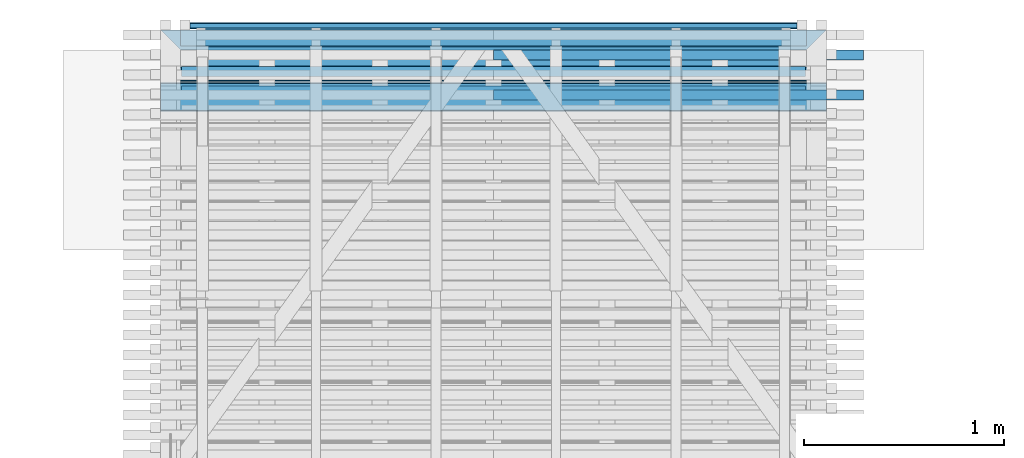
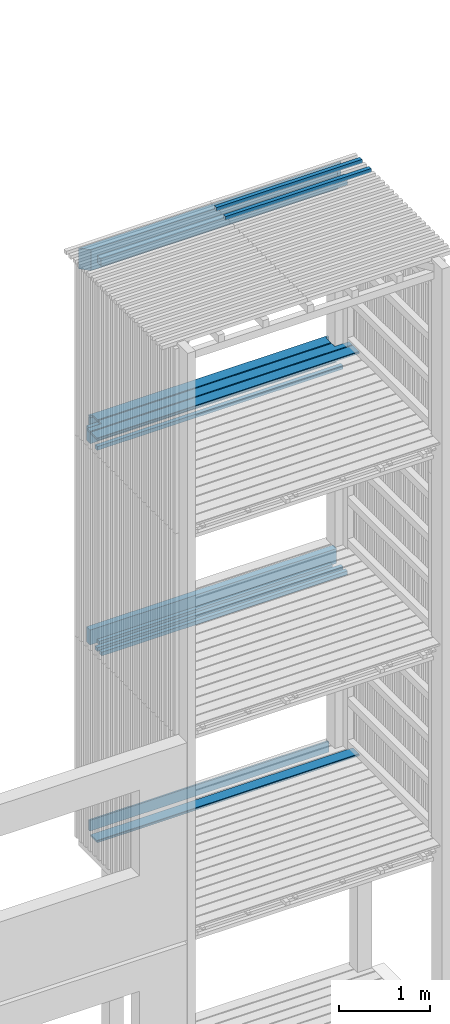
# One storey, part 51 of 182: 17 beams.
"""IFC2X3 building model written with IfcOpenShell, lengths in metres."""

from ifc_helpers import new_model, si_unit, frame, origin, place, context, project, spatial, faceted_brep, element, save


model = new_model("IFC2X3")

# Units and contexts
model_context = context("Model", 3, precision=1e-06, world=origin())
ifc_project = project(units=[si_unit("LENGTHUNIT", "METRE"), si_unit("PLANEANGLEUNIT", "RADIAN")], contexts=[model_context])

# Site, building, storey
site = spatial("IfcSite", under=ifc_project, CompositionType="ELEMENT")
building = spatial("IfcBuilding", under=site, CompositionType="ELEMENT")
storey = spatial("IfcBuildingStorey", under=building, Name="vs", CompositionType="ELEMENT", Elevation=-0.85)

# Beams
placement = place(None, origin())
beam_1_placement = place(placement, frame((16.839197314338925, 12.545077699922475, 10.47999999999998), z_axis=(0.0, 0.0, 1.0), x_axis=(-1.0, 0.0, 0.0)))
element("IfcBeam", 1, at=beam_1_placement, inside=storey, Name="Bardage", context=model_context, shape_type="Brep", body=[
    faceted_brep([(-3e-15, 0.025000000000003, 0.025000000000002), (-3e-15, -0.024999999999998, 0.025000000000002), (1.849999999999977, -0.025000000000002, 0.025000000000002), (1.849999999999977, 0.025000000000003, 0.025000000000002), (1.849999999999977, -0.025000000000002, 0.025000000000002), (-3e-15, -0.024999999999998, 0.025000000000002), (-3e-15, -0.024999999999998, -0.024999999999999), (1.849999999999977, -0.025000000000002, -0.024999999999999), (-3e-15, -0.024999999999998, 0.025000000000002), (-3e-15, 0.025000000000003, 0.025000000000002), (-3e-15, 0.025000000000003, -0.024999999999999), (-3e-15, -0.024999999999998, -0.024999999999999), (-3e-15, 0.025000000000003, -0.024999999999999), (-3e-15, 0.025000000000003, 0.025000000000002), (1.849999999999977, 0.025000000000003, 0.025000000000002), (1.849999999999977, 0.025000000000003, -0.024999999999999), (1.849999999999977, -0.025000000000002, -0.024999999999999), (-3e-15, -0.024999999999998, -0.024999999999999), (-3e-15, 0.025000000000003, -0.024999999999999), (1.849999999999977, 0.025000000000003, -0.024999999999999), (1.849999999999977, -0.025000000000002, 0.025000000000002), (1.849999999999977, -0.025000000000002, -0.024999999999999), (1.849999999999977, 0.025000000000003, -0.024999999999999), (1.849999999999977, 0.025000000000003, 0.025000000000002)], [[[0, 1, 2, 3]], [[4, 5, 6, 7]], [[8, 9, 10, 11]], [[12, 13, 14, 15]], [[16, 17, 18, 19]], [[20, 21, 22, 23]]]),
])
beam_2_placement = place(placement, frame((16.549197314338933, 12.662994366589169, 7.86739999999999), z_axis=(0.0, 0.0, 1.0), x_axis=(-1.0, -1e-15, 0.0)))
element("IfcBeam", 2, at=beam_2_placement, inside=storey, Name="Bardage", context=model_context, shape_type="Brep", body=[
    faceted_brep([(3.120000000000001, 0.024999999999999, -0.024999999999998), (3.120000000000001, 0.024999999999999, 0.025000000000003), (3.120000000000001, -0.025000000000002, 0.025000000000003), (3.120000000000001, -0.025000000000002, -0.024999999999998), (-3e-15, -0.024999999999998, -0.024999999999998), (-3e-15, -0.024999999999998, 0.025000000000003), (-3e-15, 0.025000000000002, 0.025000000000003), (-3e-15, 0.025000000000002, -0.024999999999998), (-3e-15, 0.025000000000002, -0.024999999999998), (-3e-15, 0.025000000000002, 0.025000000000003), (3.120000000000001, 0.024999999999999, 0.025000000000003), (3.120000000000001, 0.024999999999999, -0.024999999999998), (-3e-15, 0.025000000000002, 0.025000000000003), (-3e-15, -0.024999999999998, 0.025000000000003), (3.120000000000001, -0.025000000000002, 0.025000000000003), (3.120000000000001, 0.024999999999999, 0.025000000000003), (-3e-15, -0.024999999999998, 0.025000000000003), (-3e-15, -0.024999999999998, -0.024999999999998), (3.120000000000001, -0.025000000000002, -0.024999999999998), (3.120000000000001, -0.025000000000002, 0.025000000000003), (-3e-15, -0.024999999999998, -0.024999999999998), (-3e-15, 0.025000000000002, -0.024999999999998), (3.120000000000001, 0.024999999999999, -0.024999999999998), (3.120000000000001, -0.025000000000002, -0.024999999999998)], [[[0, 1, 2, 3]], [[4, 5, 6, 7]], [[8, 9, 10, 11]], [[12, 13, 14, 15]], [[16, 17, 18, 19]], [[20, 21, 22, 23]]]),
])
beam_3_placement = place(placement, frame((16.839197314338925, 12.745077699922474, 10.47999999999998), z_axis=(0.0, 0.0, 1.0), x_axis=(-1.0, 0.0, 0.0)))
element("IfcBeam", 3, at=beam_3_placement, inside=storey, Name="Bardage", context=model_context, shape_type="Brep", body=[
    faceted_brep([(-3e-15, 0.024999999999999, 0.025000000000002), (-3e-15, -0.024999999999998, 0.025000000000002), (1.849999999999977, -0.024999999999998, 0.025000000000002), (1.849999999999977, 0.024999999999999, 0.025000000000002), (1.849999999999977, -0.024999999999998, 0.025000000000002), (-3e-15, -0.024999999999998, 0.025000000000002), (-3e-15, -0.024999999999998, -0.024999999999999), (1.849999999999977, -0.024999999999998, -0.024999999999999), (-3e-15, -0.024999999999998, 0.025000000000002), (-3e-15, 0.024999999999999, 0.025000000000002), (-3e-15, 0.024999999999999, -0.024999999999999), (-3e-15, -0.024999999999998, -0.024999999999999), (-3e-15, 0.024999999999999, -0.024999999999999), (-3e-15, 0.024999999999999, 0.025000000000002), (1.849999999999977, 0.024999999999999, 0.025000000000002), (1.849999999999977, 0.024999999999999, -0.024999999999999), (1.849999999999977, -0.024999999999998, -0.024999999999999), (-3e-15, -0.024999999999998, -0.024999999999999), (-3e-15, 0.024999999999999, -0.024999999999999), (1.849999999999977, 0.024999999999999, -0.024999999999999), (1.849999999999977, -0.024999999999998, 0.025000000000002), (1.849999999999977, -0.024999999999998, -0.024999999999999), (1.849999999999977, 0.024999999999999, -0.024999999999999), (1.849999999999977, 0.024999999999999, 0.025000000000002)], [[[0, 1, 2, 3]], [[4, 5, 6, 7]], [[8, 9, 10, 11]], [[12, 13, 14, 15]], [[16, 17, 18, 19]], [[20, 21, 22, 23]]]),
])
beam_4_placement = place(placement, frame((16.549197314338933, 12.662994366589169, 5.167399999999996), z_axis=(0.0, 0.0, 1.0), x_axis=(-1.0, -1e-15, 0.0)))
element("IfcBeam", 4, at=beam_4_placement, inside=storey, Name="Bardage", context=model_context, shape_type="Brep", body=[
    faceted_brep([(3.120000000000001, 0.024999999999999, -0.025), (3.120000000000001, 0.024999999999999, 0.025), (3.120000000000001, -0.025000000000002, 0.025), (3.120000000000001, -0.025000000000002, -0.025), (-3e-15, -0.024999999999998, -0.025), (-3e-15, -0.024999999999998, 0.025), (-3e-15, 0.025000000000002, 0.025), (-3e-15, 0.025000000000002, -0.025), (-3e-15, 0.025000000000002, -0.025), (-3e-15, 0.025000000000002, 0.025), (3.120000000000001, 0.024999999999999, 0.025), (3.120000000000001, 0.024999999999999, -0.025), (-3e-15, 0.025000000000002, 0.025), (-3e-15, -0.024999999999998, 0.025), (3.120000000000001, -0.025000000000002, 0.025), (3.120000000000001, 0.024999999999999, 0.025), (-3e-15, -0.024999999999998, 0.025), (-3e-15, -0.024999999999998, -0.025), (3.120000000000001, -0.025000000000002, -0.025), (3.120000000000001, -0.025000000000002, 0.025), (-3e-15, -0.024999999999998, -0.025), (-3e-15, 0.025000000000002, -0.025), (3.120000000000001, 0.024999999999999, -0.025), (3.120000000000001, -0.025000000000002, -0.025)], [[[0, 1, 2, 3]], [[4, 5, 6, 7]], [[8, 9, 10, 11]], [[12, 13, 14, 15]], [[16, 17, 18, 19]], [[20, 21, 22, 23]]]),
])
beam_5_placement = place(placement, frame((13.472379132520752, 12.89357769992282, 2.642499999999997), z_axis=(0.0, 1.0, 0.0), x_axis=(1.0, 0.0, 0.0)))
element("IfcBeam", 5, at=beam_5_placement, inside=storey, Name="Caillebotis", context=model_context, shape_type="Brep", body=[
    faceted_brep([(-3e-15, -0.0725, -0.013500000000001), (-3e-15, 0.0725, -0.013500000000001), (3.033636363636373, 0.0725, -0.013499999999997), (3.033636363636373, -0.0725, -0.013499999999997), (-3e-15, -0.0725, 0.008500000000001), (-3e-15, -0.0725, -0.013500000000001), (3.033636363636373, -0.0725, -0.013499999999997), (3.033636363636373, -0.0725, 0.008500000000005), (-3e-15, -0.067500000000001, 0.0135), (-3e-15, -0.0725, 0.008500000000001), (3.033636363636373, -0.0725, 0.008500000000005), (3.033636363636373, -0.067500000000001, 0.013500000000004), (-3e-15, -0.0725, -0.013500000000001), (-3e-15, -0.0725, 0.008500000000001), (-3e-15, -0.067500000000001, 0.0135), (-3e-15, 0.067500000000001, 0.0135), (-3e-15, 0.0725, 0.008500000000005), (-3e-15, 0.0725, -0.013500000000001), (-3e-15, 0.067500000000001, 0.0135), (-3e-15, -0.067500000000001, 0.0135), (3.033636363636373, -0.067500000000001, 0.013500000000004), (3.033636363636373, 0.067500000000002, 0.013500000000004), (-3e-15, 0.0725, 0.008500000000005), (-3e-15, 0.067500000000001, 0.0135), (3.033636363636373, 0.067500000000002, 0.013500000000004), (3.033636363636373, 0.0725, 0.008500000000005), (3.033636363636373, 0.0725, -0.013499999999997), (-3e-15, 0.0725, -0.013500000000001), (-3e-15, 0.0725, 0.008500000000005), (3.033636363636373, 0.0725, 0.008500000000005), (3.033636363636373, -0.0725, 0.008500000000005), (3.033636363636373, -0.0725, -0.013499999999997), (3.033636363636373, 0.0725, -0.013499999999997), (3.033636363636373, 0.0725, 0.008500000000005), (3.033636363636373, 0.067500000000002, 0.013500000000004), (3.033636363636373, -0.067500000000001, 0.013500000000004)], [[[0, 1, 2, 3]], [[4, 5, 6, 7]], [[8, 9, 10, 11]], [[12, 13, 14, 15, 16, 17]], [[18, 19, 20, 21]], [[22, 23, 24, 25]], [[26, 27, 28, 29]], [[30, 31, 32, 33, 34, 35]]]),
])
beam_6_placement = place(placement, frame((16.55419731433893, 12.830077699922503, 5.239999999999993), z_axis=(0.0, 0.0, 1.0), x_axis=(-1.0, 0.0, 0.0)))
element("IfcBeam", 6, at=beam_6_placement, inside=storey, Name="Sommier", context=model_context, shape_type="Brep", body=[
    faceted_brep([(3.129999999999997, -0.039999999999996, 0.100000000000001), (3.129999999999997, 0.040000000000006, 0.100000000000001), (1e-15, 0.040000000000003, 0.100000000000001), (1e-15, -0.039999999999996, 0.100000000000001), (3.129999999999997, -0.039999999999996, -0.1), (3.129999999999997, -0.039999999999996, 0.100000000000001), (1e-15, -0.039999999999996, 0.100000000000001), (1e-15, -0.039999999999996, -0.1), (3.129999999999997, -0.039999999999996, 0.100000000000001), (3.129999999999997, -0.039999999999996, -0.1), (3.129999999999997, 0.040000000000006, -0.099999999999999), (3.129999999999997, 0.040000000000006, 0.100000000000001), (3.129999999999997, 0.040000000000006, -0.099999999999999), (3.129999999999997, -0.039999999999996, -0.1), (1e-15, -0.039999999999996, -0.1), (1e-15, 0.040000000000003, -0.1), (1e-15, 0.040000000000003, 0.100000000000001), (3.129999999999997, 0.040000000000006, 0.100000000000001), (3.129999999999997, 0.040000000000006, -0.099999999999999), (1e-15, 0.040000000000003, -0.1), (1e-15, -0.039999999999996, 0.100000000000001), (1e-15, 0.040000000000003, 0.100000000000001), (1e-15, 0.040000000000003, -0.1), (1e-15, -0.039999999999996, -0.1)], [[[0, 1, 2, 3]], [[4, 5, 6, 7]], [[8, 9, 10, 11]], [[12, 13, 14, 15]], [[16, 17, 18, 19]], [[20, 21, 22, 23]]]),
])
beam_7_placement = place(placement, frame((16.654197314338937, 12.534577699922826, 2.733499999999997), z_axis=(0.0, 0.0, 1.0), x_axis=(-1.0, -1e-15, 0.0)))
element("IfcBeam", 7, at=beam_7_placement, inside=storey, Name="Caillebotis", context=model_context, shape_type="Brep", body=[
    faceted_brep([(3.329999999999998, -0.072500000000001, -0.0135), (3.329999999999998, 0.072500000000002, -0.0135), (3.329999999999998, 0.072500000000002, 0.008500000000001), (3.329999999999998, 0.067499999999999, 0.0135), (3.329999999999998, -0.067499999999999, 0.0135), (3.329999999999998, -0.072500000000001, 0.008500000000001), (0.0, -0.072499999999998, 0.008500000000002), (0.0, -0.067499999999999, 0.0135), (0.0, 0.067500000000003, 0.0135), (0.0, 0.072500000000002, 0.008500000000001), (0.0, 0.072500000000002, -0.0135), (0.0, -0.072499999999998, -0.0135), (3.329999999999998, 0.072500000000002, 0.008500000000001), (3.329999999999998, 0.072500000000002, -0.0135), (0.0, 0.072500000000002, -0.0135), (0.0, 0.072500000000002, 0.008500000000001), (3.329999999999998, 0.067499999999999, 0.0135), (3.329999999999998, 0.072500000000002, 0.008500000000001), (0.0, 0.072500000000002, 0.008500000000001), (0.0, 0.067500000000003, 0.0135), (3.329999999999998, -0.067499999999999, 0.0135), (3.329999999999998, 0.067499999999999, 0.0135), (0.0, 0.067500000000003, 0.0135), (0.0, -0.067499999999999, 0.0135), (3.329999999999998, -0.072500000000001, 0.008500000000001), (3.329999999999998, -0.067499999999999, 0.0135), (0.0, -0.067499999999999, 0.0135), (0.0, -0.072499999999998, 0.008500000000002), (3.329999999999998, -0.072500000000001, -0.0135), (3.329999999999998, -0.072500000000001, 0.008500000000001), (0.0, -0.072499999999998, 0.008500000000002), (0.0, -0.072499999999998, -0.0135), (0.0, 0.072500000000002, -0.0135), (3.329999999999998, 0.072500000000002, -0.0135), (3.329999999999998, -0.072500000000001, -0.0135), (0.0, -0.072499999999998, -0.0135)], [[[0, 1, 2, 3, 4, 5]], [[6, 7, 8, 9, 10, 11]], [[12, 13, 14, 15]], [[16, 17, 18, 19]], [[20, 21, 22, 23]], [[24, 25, 26, 27]], [[28, 29, 30, 31]], [[32, 33, 34, 35]]]),
])
beam_8_placement = place(placement, frame((16.549197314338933, 12.565911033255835, 5.167399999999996), z_axis=(0.0, 0.0, 1.0), x_axis=(-1.0, 0.0, 0.0)))
element("IfcBeam", 8, at=beam_8_placement, inside=storey, Name="Bardage", context=model_context, shape_type="Brep", body=[
    faceted_brep([(3.120000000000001, 0.025000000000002, -0.025), (3.120000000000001, 0.025000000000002, 0.024999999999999), (3.120000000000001, -0.024999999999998, 0.024999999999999), (3.120000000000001, -0.024999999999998, -0.025), (-3e-15, -0.024999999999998, -0.025), (-3e-15, -0.024999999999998, 0.024999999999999), (-3e-15, 0.024999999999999, 0.024999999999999), (-3e-15, 0.024999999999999, -0.025), (-3e-15, 0.024999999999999, -0.025), (-3e-15, 0.024999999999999, 0.024999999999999), (3.120000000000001, 0.025000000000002, 0.024999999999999), (3.120000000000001, 0.025000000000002, -0.025), (-3e-15, 0.024999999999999, 0.024999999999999), (-3e-15, -0.024999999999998, 0.024999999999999), (3.120000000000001, -0.024999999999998, 0.024999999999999), (3.120000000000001, 0.025000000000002, 0.024999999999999), (-3e-15, -0.024999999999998, 0.024999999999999), (-3e-15, -0.024999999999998, -0.025), (3.120000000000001, -0.024999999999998, -0.025), (3.120000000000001, -0.024999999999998, 0.024999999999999), (-3e-15, -0.024999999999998, -0.025), (-3e-15, 0.024999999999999, -0.025), (3.120000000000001, 0.025000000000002, -0.025), (3.120000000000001, -0.024999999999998, -0.025)], [[[0, 1, 2, 3]], [[4, 5, 6, 7]], [[8, 9, 10, 11]], [[12, 13, 14, 15]], [[16, 17, 18, 19]], [[20, 21, 22, 23]]]),
])
beam_9_placement = place(placement, frame((13.504197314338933, 12.765077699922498, 2.5174), z_axis=(0.0, 0.0, 1.0), x_axis=(1.0, 1e-15, 0.0)))
element("IfcBeam", 9, at=beam_9_placement, inside=storey, Name="Ligneul", context=model_context, shape_type="Brep", body=[
    faceted_brep([(2e-15, -0.024999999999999, 0.025), (2e-15, -0.024999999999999, -0.025), (2.970000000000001, -0.025000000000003, -0.025), (2.970000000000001, -0.025000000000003, 0.025), (2e-15, 0.025000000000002, 0.025), (2e-15, -0.024999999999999, 0.025), (2.970000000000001, -0.025000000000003, 0.025), (2.970000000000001, 0.025000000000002, 0.025), (2e-15, -0.024999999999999, 0.025), (2e-15, 0.025000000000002, 0.025), (2e-15, 0.025000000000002, -0.025), (2e-15, -0.024999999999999, -0.025), (2e-15, 0.025000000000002, -0.025), (2e-15, 0.025000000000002, 0.025), (2.970000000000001, 0.025000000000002, 0.025), (2.970000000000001, 0.025000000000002, -0.025), (2.970000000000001, -0.025000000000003, -0.025), (2e-15, -0.024999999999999, -0.025), (2e-15, 0.025000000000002, -0.025), (2.970000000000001, 0.025000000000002, -0.025), (2.970000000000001, -0.025000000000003, 0.025), (2.970000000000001, -0.025000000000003, -0.025), (2.970000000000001, 0.025000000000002, -0.025), (2.970000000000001, 0.025000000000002, 0.025)], [[[0, 1, 2, 3]], [[4, 5, 6, 7]], [[8, 9, 10, 11]], [[12, 13, 14, 15]], [[16, 17, 18, 19]], [[20, 21, 22, 23]]]),
])
beam_10_placement = place(placement, frame((16.63419731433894, 12.730077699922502, 10.30499999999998), z_axis=(0.0, 0.0, 1.0), x_axis=(-1.0, 0.0, 0.0)))
element("IfcBeam", 10, at=beam_10_placement, inside=storey, Name="Support bardage", context=model_context, shape_type="Brep", body=[
    faceted_brep([(3e-15, 0.04, -0.050000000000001), (3e-15, -0.039999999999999, -0.050000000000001), (3e-15, -0.039999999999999, 0.050000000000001), (3e-15, 0.04, 0.050000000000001), (3.129999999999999, -0.039999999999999, 0.050000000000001), (3.129999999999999, -0.039999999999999, -0.050000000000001), (3.129999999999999, 0.04, -0.050000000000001), (3.129999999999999, 0.04, 0.050000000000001), (3e-15, -0.039999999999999, -0.050000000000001), (3e-15, 0.04, -0.050000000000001), (3.129999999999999, 0.04, -0.050000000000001), (3.129999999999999, -0.039999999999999, -0.050000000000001), (3e-15, -0.039999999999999, 0.050000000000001), (3e-15, -0.039999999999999, -0.050000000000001), (3.129999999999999, -0.039999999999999, -0.050000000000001), (3.129999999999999, -0.039999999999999, 0.050000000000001), (3e-15, 0.04, 0.050000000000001), (3e-15, -0.039999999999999, 0.050000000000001), (3.129999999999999, -0.039999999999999, 0.050000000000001), (3.129999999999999, 0.04, 0.050000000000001), (3.129999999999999, 0.04, -0.050000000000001), (3e-15, 0.04, -0.050000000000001), (3e-15, 0.04, 0.050000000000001), (3.129999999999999, 0.04, 0.050000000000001)], [[[0, 1, 2, 3]], [[4, 5, 6, 7]], [[8, 9, 10, 11]], [[12, 13, 14, 15]], [[16, 17, 18, 19]], [[20, 21, 22, 23]]]),
])
beam_11_placement = place(placement, frame((13.32419731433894, 12.820077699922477, 10.314999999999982), z_axis=(0.0, 0.0, 1.0), x_axis=(1.0, 7e-15, 0.0)))
element("IfcBeam", 11, at=beam_11_placement, inside=storey, Name="Sommier", context=model_context, shape_type="Brep", body=[
    faceted_brep([(3.33, 0.049999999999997, -0.140000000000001), (3.230000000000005, -0.049999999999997, -0.140000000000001), (0.099999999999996, -0.049999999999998, -0.140000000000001), (2e-15, 0.049999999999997, -0.140000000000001), (0.099999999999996, -0.049999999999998, -0.140000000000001), (3.230000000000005, -0.049999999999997, -0.140000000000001), (3.230000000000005, -0.049999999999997, 0.140000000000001), (0.099999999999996, -0.049999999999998, 0.140000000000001), (3.230000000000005, -0.049999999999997, -0.140000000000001), (3.33, 0.049999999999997, -0.140000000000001), (3.33, 0.049999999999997, 0.140000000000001), (3.230000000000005, -0.049999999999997, 0.140000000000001), (3.33, 0.049999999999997, 0.140000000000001), (3.33, 0.049999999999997, -0.140000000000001), (2e-15, 0.049999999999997, -0.140000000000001), (2e-15, 0.049999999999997, 0.140000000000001), (0.099999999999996, -0.049999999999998, 0.140000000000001), (3.230000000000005, -0.049999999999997, 0.140000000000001), (3.33, 0.049999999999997, 0.140000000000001), (2e-15, 0.049999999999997, 0.140000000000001), (0.099999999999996, -0.049999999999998, -0.140000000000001), (0.099999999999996, -0.049999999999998, 0.140000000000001), (2e-15, 0.049999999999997, 0.140000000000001), (2e-15, 0.049999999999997, -0.140000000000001)], [[[0, 1, 2, 3]], [[4, 5, 6, 7]], [[8, 9, 10, 11]], [[12, 13, 14, 15]], [[16, 17, 18, 19]], [[20, 21, 22, 23]]]),
])
beam_12_placement = place(placement, frame((16.55419731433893, 12.830077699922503, 7.93999999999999), z_axis=(0.0, 0.0, 1.0), x_axis=(-1.0, 0.0, 0.0)))
element("IfcBeam", 12, at=beam_12_placement, inside=storey, Name="Sommier", context=model_context, shape_type="Brep", body=[
    faceted_brep([(3.129999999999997, -0.039999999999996, 0.1), (3.129999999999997, 0.040000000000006, 0.1), (1e-15, 0.040000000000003, 0.1), (1e-15, -0.039999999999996, 0.1), (3.129999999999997, -0.039999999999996, -0.100000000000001), (3.129999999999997, -0.039999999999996, 0.1), (1e-15, -0.039999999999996, 0.1), (1e-15, -0.039999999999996, -0.100000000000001), (3.129999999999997, -0.039999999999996, 0.1), (3.129999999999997, -0.039999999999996, -0.100000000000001), (3.129999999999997, 0.040000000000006, -0.1), (3.129999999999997, 0.040000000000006, 0.1), (3.129999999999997, 0.040000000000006, -0.1), (3.129999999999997, -0.039999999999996, -0.100000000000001), (1e-15, -0.039999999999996, -0.100000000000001), (1e-15, 0.040000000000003, -0.100000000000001), (1e-15, 0.040000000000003, 0.1), (3.129999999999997, 0.040000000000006, 0.1), (3.129999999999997, 0.040000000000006, -0.1), (1e-15, 0.040000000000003, -0.100000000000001), (1e-15, -0.039999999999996, 0.1), (1e-15, 0.040000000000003, 0.1), (1e-15, 0.040000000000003, -0.100000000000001), (1e-15, -0.039999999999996, -0.100000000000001)], [[[0, 1, 2, 3]], [[4, 5, 6, 7]], [[8, 9, 10, 11]], [[12, 13, 14, 15]], [[16, 17, 18, 19]], [[20, 21, 22, 23]]]),
])
beam_13_placement = place(placement, frame((16.654197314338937, 12.534577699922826, 8.13349999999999), z_axis=(0.0, 0.0, 1.0), x_axis=(-1.0, -1e-15, 0.0)))
element("IfcBeam", 13, at=beam_13_placement, inside=storey, Name="Caillebotis", context=model_context, shape_type="Brep", body=[
    faceted_brep([(3.329999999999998, -0.072500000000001, -0.013500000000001), (3.329999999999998, 0.072500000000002, -0.013500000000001), (3.329999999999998, 0.072500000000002, 0.0085), (3.329999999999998, 0.067499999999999, 0.013499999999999), (3.329999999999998, -0.067499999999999, 0.013499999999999), (3.329999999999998, -0.072500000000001, 0.0085), (0.0, -0.072499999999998, 0.0085), (0.0, -0.067499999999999, 0.013499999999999), (0.0, 0.067500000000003, 0.013499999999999), (0.0, 0.072500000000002, 0.0085), (0.0, 0.072500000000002, -0.013500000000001), (0.0, -0.072499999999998, -0.013500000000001), (3.329999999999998, 0.072500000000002, 0.0085), (3.329999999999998, 0.072500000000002, -0.013500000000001), (0.0, 0.072500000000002, -0.013500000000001), (0.0, 0.072500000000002, 0.0085), (3.329999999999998, 0.067499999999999, 0.013499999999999), (3.329999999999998, 0.072500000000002, 0.0085), (0.0, 0.072500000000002, 0.0085), (0.0, 0.067500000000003, 0.013499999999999), (3.329999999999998, -0.067499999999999, 0.013499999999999), (3.329999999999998, 0.067499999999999, 0.013499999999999), (0.0, 0.067500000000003, 0.013499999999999), (0.0, -0.067499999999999, 0.013499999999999), (3.329999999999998, -0.072500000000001, 0.0085), (3.329999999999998, -0.067499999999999, 0.013499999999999), (0.0, -0.067499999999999, 0.013499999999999), (0.0, -0.072499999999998, 0.0085), (3.329999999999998, -0.072500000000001, -0.013500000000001), (3.329999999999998, -0.072500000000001, 0.0085), (0.0, -0.072499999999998, 0.0085), (0.0, -0.072499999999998, -0.013500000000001), (0.0, 0.072500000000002, -0.013500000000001), (3.329999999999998, 0.072500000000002, -0.013500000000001), (3.329999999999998, -0.072500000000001, -0.013500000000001), (0.0, -0.072499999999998, -0.013500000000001)], [[[0, 1, 2, 3, 4, 5]], [[6, 7, 8, 9, 10, 11]], [[12, 13, 14, 15]], [[16, 17, 18, 19]], [[20, 21, 22, 23]], [[24, 25, 26, 27]], [[28, 29, 30, 31]], [[32, 33, 34, 35]]]),
])
beam_14_placement = place(placement, frame((16.469197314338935, 12.760077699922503, 5.167399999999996), z_axis=(0.0, 0.0, 1.0), x_axis=(-1.0, 0.0, 0.0)))
element("IfcBeam", 14, at=beam_14_placement, inside=storey, Name="Bardage", context=model_context, shape_type="Brep", body=[
    faceted_brep([(2.96000000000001, -0.024999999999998, 0.025), (2.96000000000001, -0.024999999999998, -0.025), (2.96000000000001, 0.025000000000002, -0.025), (2.96000000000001, 0.025000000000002, 0.025), (2e-15, 0.024999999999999, 0.025), (2e-15, 0.024999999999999, -0.025), (2e-15, -0.024999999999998, -0.025), (2e-15, -0.024999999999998, 0.025), (2e-15, -0.024999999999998, -0.025), (2e-15, 0.024999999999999, -0.025), (2.96000000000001, 0.025000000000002, -0.025), (2.96000000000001, -0.024999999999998, -0.025), (2e-15, 0.024999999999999, -0.025), (2e-15, 0.024999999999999, 0.025), (2.96000000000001, 0.025000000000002, 0.025), (2.96000000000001, 0.025000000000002, -0.025), (2e-15, 0.024999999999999, 0.025), (2e-15, -0.024999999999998, 0.025), (2.96000000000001, -0.024999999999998, 0.025), (2.96000000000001, 0.025000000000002, 0.025), (2e-15, -0.024999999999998, 0.025), (2e-15, -0.024999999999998, -0.025), (2.96000000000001, -0.024999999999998, -0.025), (2.96000000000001, -0.024999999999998, 0.025)], [[[0, 1, 2, 3]], [[4, 5, 6, 7]], [[8, 9, 10, 11]], [[12, 13, 14, 15]], [[16, 17, 18, 19]], [[20, 21, 22, 23]]]),
])
beam_15_placement = place(placement, frame((13.472379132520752, 12.89357769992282, 8.042499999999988), z_axis=(0.0, 1.0, 0.0), x_axis=(1.0, 0.0, 0.0)))
element("IfcBeam", 15, at=beam_15_placement, inside=storey, Name="Caillebotis", context=model_context, shape_type="Brep", body=[
    faceted_brep([(-3e-15, -0.072500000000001, -0.013500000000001), (-3e-15, 0.072499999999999, -0.013500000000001), (3.033636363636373, 0.072499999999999, -0.013500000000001), (3.033636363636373, -0.072500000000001, -0.013500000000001), (-3e-15, -0.072500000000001, 0.008500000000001), (-3e-15, -0.072500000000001, -0.013500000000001), (3.033636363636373, -0.072500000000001, -0.013500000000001), (3.033636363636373, -0.072500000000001, 0.008500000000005), (-3e-15, -0.067500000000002, 0.0135), (-3e-15, -0.072500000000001, 0.008500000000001), (3.033636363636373, -0.072500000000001, 0.008500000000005), (3.033636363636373, -0.067500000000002, 0.013500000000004), (-3e-15, -0.072500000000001, -0.013500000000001), (-3e-15, -0.072500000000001, 0.008500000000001), (-3e-15, -0.067500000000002, 0.0135), (-3e-15, 0.0675, 0.0135), (-3e-15, 0.072499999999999, 0.008500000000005), (-3e-15, 0.072499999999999, -0.013500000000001), (-3e-15, 0.0675, 0.0135), (-3e-15, -0.067500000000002, 0.0135), (3.033636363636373, -0.067500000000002, 0.013500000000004), (3.033636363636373, 0.0675, 0.013500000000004), (-3e-15, 0.072499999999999, 0.008500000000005), (-3e-15, 0.0675, 0.0135), (3.033636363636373, 0.0675, 0.013500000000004), (3.033636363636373, 0.072499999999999, 0.008500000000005), (3.033636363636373, 0.072499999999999, -0.013500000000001), (-3e-15, 0.072499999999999, -0.013500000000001), (-3e-15, 0.072499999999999, 0.008500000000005), (3.033636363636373, 0.072499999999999, 0.008500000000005), (3.033636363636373, -0.072500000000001, 0.008500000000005), (3.033636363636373, -0.072500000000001, -0.013500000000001), (3.033636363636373, 0.072499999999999, -0.013500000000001), (3.033636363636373, 0.072499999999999, 0.008500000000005), (3.033636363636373, 0.0675, 0.013500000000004), (3.033636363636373, -0.067500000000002, 0.013500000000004)], [[[0, 1, 2, 3]], [[4, 5, 6, 7]], [[8, 9, 10, 11]], [[12, 13, 14, 15, 16, 17]], [[18, 19, 20, 21]], [[22, 23, 24, 25]], [[26, 27, 28, 29]], [[30, 31, 32, 33, 34, 35]]]),
])
beam_16_placement = place(placement, frame((16.654197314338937, 12.684577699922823, 8.13349999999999), z_axis=(0.0, 0.0, 1.0), x_axis=(-1.0, 0.0, 0.0)))
element("IfcBeam", 16, at=beam_16_placement, inside=storey, Name="Caillebotis", context=model_context, shape_type="Brep", body=[
    faceted_brep([(3.144999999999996, -0.000499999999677, 0.013499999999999), (3.144999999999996, -0.000499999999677, -0.013500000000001), (3.329999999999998, -0.000499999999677, -0.013500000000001), (3.329999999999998, -0.000499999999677, 0.013499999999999), (3.329999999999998, 0.072500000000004, -0.013500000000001), (3.329999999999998, 0.072500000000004, 0.0085), (3.329999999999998, 0.067500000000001, 0.013499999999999), (3.329999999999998, -0.000499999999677, 0.013499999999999), (3.329999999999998, -0.000499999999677, -0.013500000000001), (3.144999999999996, -0.072499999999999, 0.0085), (3.144999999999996, -0.072499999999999, -0.013500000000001), (3.144999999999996, -0.000499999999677, -0.013500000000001), (3.144999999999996, -0.000499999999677, 0.013499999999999), (3.144999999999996, -0.067499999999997, 0.013499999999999), (3.144999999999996, -0.072499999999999, -0.013500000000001), (3.144999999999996, -0.072499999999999, 0.0085), (0.185000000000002, -0.072499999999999, 0.008500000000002), (0.185000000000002, -0.072499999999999, -0.013500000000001), (3.144999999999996, -0.072499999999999, 0.0085), (3.144999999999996, -0.067499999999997, 0.013499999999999), (0.185000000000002, -0.0675, 0.013499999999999), (0.185000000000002, -0.072499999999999, 0.008500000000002), (0.185000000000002, -0.072499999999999, -0.013500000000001), (0.185000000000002, -0.072499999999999, 0.008500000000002), (0.185000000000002, -0.0675, 0.013499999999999), (0.185000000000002, -0.000499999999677, 0.013499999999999), (0.185000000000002, -0.000499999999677, -0.013500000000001), (0.0, -0.000499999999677, 0.013499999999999), (0.0, 0.067500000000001, 0.013499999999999), (0.0, 0.0725, 0.0085), (0.0, 0.0725, -0.013500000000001), (0.0, -0.000499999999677, -0.013500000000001), (3.329999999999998, 0.072500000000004, 0.0085), (3.329999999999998, 0.072500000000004, -0.013500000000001), (0.0, 0.0725, -0.013500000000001), (0.0, 0.0725, 0.0085), (3.329999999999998, 0.067500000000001, 0.013499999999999), (3.329999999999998, 0.072500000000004, 0.0085), (0.0, 0.0725, 0.0085), (0.0, 0.067500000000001, 0.013499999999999), (3.144999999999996, -0.067499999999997, 0.013499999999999), (3.144999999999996, -0.000499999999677, 0.013499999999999), (3.329999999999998, -0.000499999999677, 0.013499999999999), (3.329999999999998, 0.067500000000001, 0.013499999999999), (0.0, 0.067500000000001, 0.013499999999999), (0.0, -0.000499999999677, 0.013499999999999), (0.185000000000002, -0.000499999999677, 0.013499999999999), (0.185000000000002, -0.0675, 0.013499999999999), (0.185000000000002, -0.000499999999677, -0.013500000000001), (0.185000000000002, -0.000499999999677, 0.013499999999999), (0.0, -0.000499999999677, 0.013499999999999), (0.0, -0.000499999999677, -0.013500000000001), (0.0, -0.000499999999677, -0.013500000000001), (0.0, 0.0725, -0.013500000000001), (3.329999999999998, 0.072500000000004, -0.013500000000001), (3.329999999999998, -0.000499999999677, -0.013500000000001), (3.144999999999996, -0.000499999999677, -0.013500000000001), (3.144999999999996, -0.072499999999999, -0.013500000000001), (0.185000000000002, -0.072499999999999, -0.013500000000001), (0.185000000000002, -0.000499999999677, -0.013500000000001)], [[[0, 1, 2, 3]], [[4, 5, 6, 7, 8]], [[9, 10, 11, 12, 13]], [[14, 15, 16, 17]], [[18, 19, 20, 21]], [[22, 23, 24, 25, 26]], [[27, 28, 29, 30, 31]], [[32, 33, 34, 35]], [[36, 37, 38, 39]], [[40, 41, 42, 43, 44, 45, 46, 47]], [[48, 49, 50, 51]], [[52, 53, 54, 55, 56, 57, 58, 59]]]),
])
beam_17_placement = place(placement, frame((16.506015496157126, 12.834577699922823, 8.13349999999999), z_axis=(0.0, 0.0, 1.0), x_axis=(-1.0, 0.0, 0.0)))
element("IfcBeam", 17, at=beam_17_placement, inside=storey, Name="Caillebotis", context=model_context, shape_type="Brep", body=[
    faceted_brep([(3.033636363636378, -0.072499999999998, -0.013500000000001), (3.033636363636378, -0.072499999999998, 0.0085), (2e-15, -0.072499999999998, 0.0085), (2e-15, -0.072499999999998, -0.013500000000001), (2.996818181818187, 0.072500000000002, 0.008499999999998), (2.996818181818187, 0.067500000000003, 0.013499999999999), (2.996818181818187, -0.040499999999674, 0.013499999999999), (2.996818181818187, -0.040499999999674, -0.013500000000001), (2.996818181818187, 0.072500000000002, -0.013500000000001), (0.036818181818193, -0.040499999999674, -0.013500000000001), (0.036818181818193, 0.072499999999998, -0.013500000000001), (2.996818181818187, 0.072500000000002, -0.013500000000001), (2.996818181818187, -0.040499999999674, -0.013500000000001), (3.033636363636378, -0.040499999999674, -0.013500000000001), (3.033636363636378, -0.072499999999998, -0.013500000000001), (2e-15, -0.072499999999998, -0.013500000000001), (2e-15, -0.040499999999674, -0.013500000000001), (3.033636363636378, -0.072499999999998, 0.0085), (3.033636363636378, -0.072499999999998, -0.013500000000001), (3.033636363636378, -0.040499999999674, -0.013500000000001), (3.033636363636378, -0.040499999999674, 0.013499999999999), (3.033636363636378, -0.067500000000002, 0.013499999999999), (3.033636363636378, -0.040499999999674, 0.013499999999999), (3.033636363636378, -0.040499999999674, -0.013500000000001), (2.996818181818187, -0.040499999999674, -0.013500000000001), (2.996818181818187, -0.040499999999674, 0.013499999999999), (2.996818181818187, 0.072500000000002, 0.008499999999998), (2.996818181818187, 0.072500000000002, -0.013500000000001), (0.036818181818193, 0.072499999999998, -0.013500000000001), (0.036818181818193, 0.072499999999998, 0.0085), (2.996818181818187, 0.067500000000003, 0.013499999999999), (2.996818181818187, 0.072500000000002, 0.008499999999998), (0.036818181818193, 0.072499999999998, 0.0085), (0.036818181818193, 0.067500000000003, 0.013499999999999), (0.036818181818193, 0.067500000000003, 0.013499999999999), (0.036818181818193, 0.072499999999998, 0.0085), (0.036818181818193, 0.072499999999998, -0.013500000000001), (0.036818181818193, -0.040499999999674, -0.013500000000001), (0.036818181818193, -0.040499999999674, 0.013499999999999), (0.036818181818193, -0.040499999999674, 0.013499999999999), (0.036818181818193, -0.040499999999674, -0.013500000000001), (2e-15, -0.040499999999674, -0.013500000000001), (2e-15, -0.040499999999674, 0.013499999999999), (3.033636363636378, -0.067500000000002, 0.013499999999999), (3.033636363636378, -0.040499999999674, 0.013499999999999), (2.996818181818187, -0.040499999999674, 0.013499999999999), (2.996818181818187, 0.067500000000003, 0.013499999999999), (0.036818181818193, 0.067500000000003, 0.013499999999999), (0.036818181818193, -0.040499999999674, 0.013499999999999), (2e-15, -0.040499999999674, 0.013499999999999), (2e-15, -0.067500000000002, 0.013499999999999), (2e-15, -0.072499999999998, 0.0085), (3.033636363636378, -0.072499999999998, 0.0085), (3.033636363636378, -0.067500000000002, 0.013499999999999), (2e-15, -0.067500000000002, 0.013499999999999), (2e-15, -0.072499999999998, -0.013500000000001), (2e-15, -0.072499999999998, 0.0085), (2e-15, -0.067500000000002, 0.013499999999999), (2e-15, -0.040499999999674, 0.013499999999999), (2e-15, -0.040499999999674, -0.013500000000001)], [[[0, 1, 2, 3]], [[4, 5, 6, 7, 8]], [[9, 10, 11, 12, 13, 14, 15, 16]], [[17, 18, 19, 20, 21]], [[22, 23, 24, 25]], [[26, 27, 28, 29]], [[30, 31, 32, 33]], [[34, 35, 36, 37, 38]], [[39, 40, 41, 42]], [[43, 44, 45, 46, 47, 48, 49, 50]], [[51, 52, 53, 54]], [[55, 56, 57, 58, 59]]]),
])

save(model, "model.ifc")
